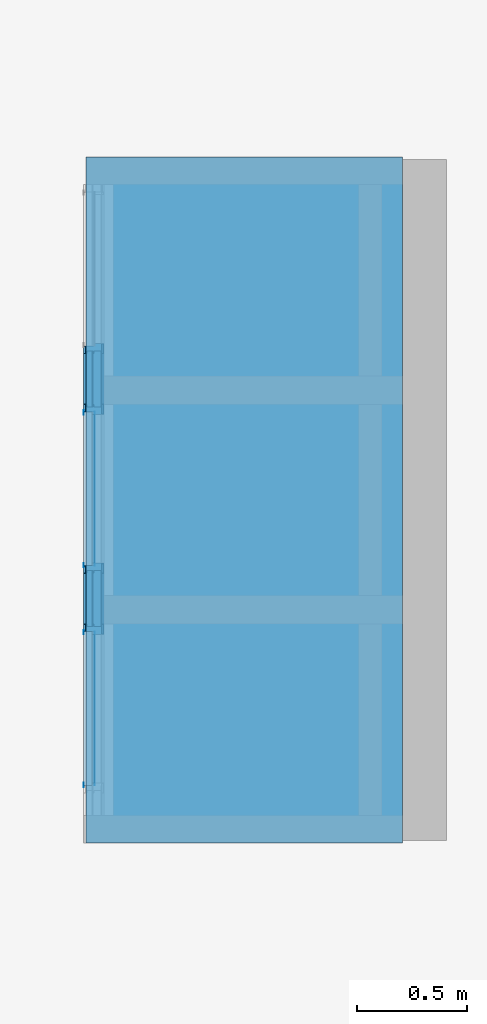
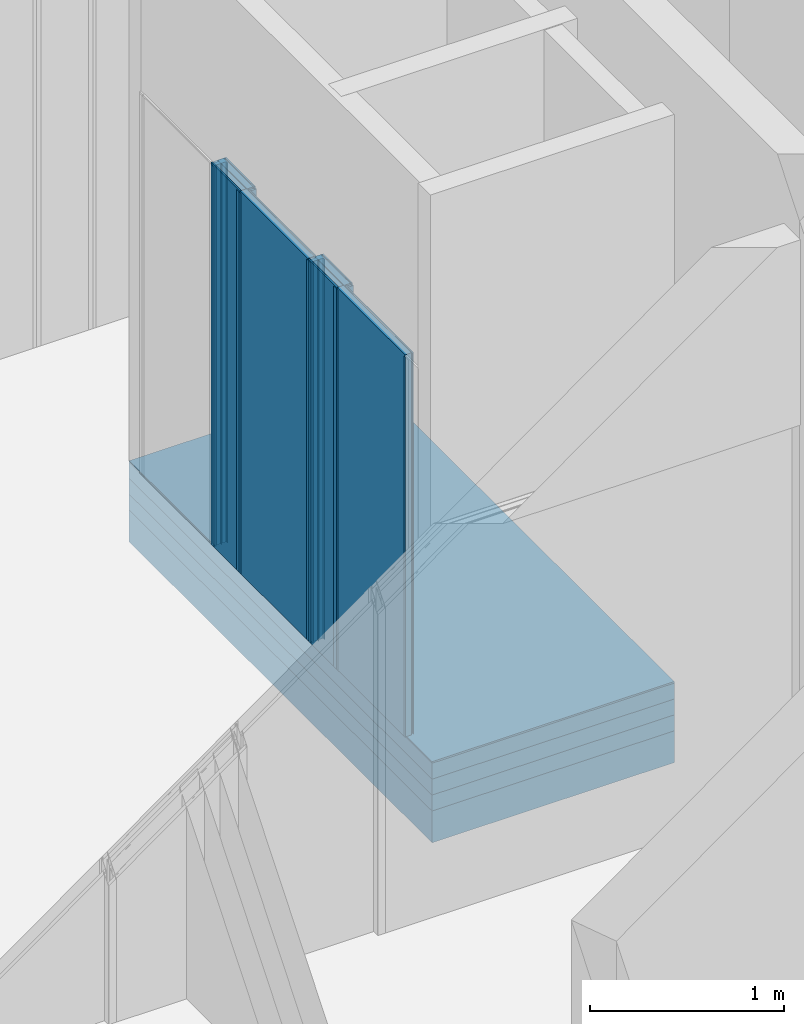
# One storey, part 19 of 89: 25 building element parts, 10 elements without a shape of their own.
"""IFC2X3 building model written with IfcOpenShell, lengths in millimetres."""

from ifc_helpers import new_model, entity, si_unit, converted_unit, derived_unit, money_unit, direction, frame, origin_with_axes, place, context, subcontext, project, spatial, polyline, outline, extrude, open_shell, faceted_brep, surface_model, source, transform, mapped, material, type_object, element, aggregate, save


model = new_model("IFC2X3")

# Units and contexts
model_context = context("Model", 3, precision=0.01, world=origin_with_axes(), true_north=direction((0.0, 1.0)))
body_context = subcontext(model_context, "Body", "Model", "MODEL_VIEW")
ifc_project = project(units=[si_unit("LENGTHUNIT", "METRE", prefix="MILLI"), si_unit("AREAUNIT", "SQUARE_METRE"), si_unit("VOLUMEUNIT", "CUBIC_METRE"), converted_unit("PLANEANGLEUNIT", "DEGREE", entity("IfcPlaneAngleMeasure", 0.0174532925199), si_unit("PLANEANGLEUNIT", "RADIAN"), dimensions=[0, 0, 0, 0, 0, 0, 0]), si_unit("SOLIDANGLEUNIT", "STERADIAN"), money_unit("EUR"), converted_unit("TIMEUNIT", "Year", entity("IfcTimeMeasure", 31556926.0), si_unit("TIMEUNIT", "SECOND"), dimensions=[0, 0, 1, 0, 0, 0, 0]), si_unit("MASSUNIT", "GRAM", prefix="KILO"), si_unit("THERMODYNAMICTEMPERATUREUNIT", "DEGREE_CELSIUS"), si_unit("LUMINOUSINTENSITYUNIT", "LUMEN"), si_unit("ENERGYUNIT", "JOULE", prefix="MEGA"), derived_unit("THERMALCONDUCTANCEUNIT", [(si_unit("POWERUNIT", "WATT"), 1), (si_unit("LENGTHUNIT", "METRE"), -1), (si_unit("THERMODYNAMICTEMPERATUREUNIT", "KELVIN"), -1)]), derived_unit("SPECIFICHEATCAPACITYUNIT", [(si_unit("ENERGYUNIT", "JOULE"), 1), (si_unit("MASSUNIT", "GRAM", prefix="KILO"), -1), (si_unit("THERMODYNAMICTEMPERATUREUNIT", "KELVIN"), -1)]), derived_unit("MASSDENSITYUNIT", [(si_unit("MASSUNIT", "GRAM", prefix="KILO"), 1), (si_unit("VOLUMEUNIT", "CUBIC_METRE"), -1)])], contexts=[model_context])

# Site, building, storey
site_placement = place(None, origin_with_axes())
site = spatial("IfcSite", under=ifc_project, at=site_placement, Name="Puškini 31, Narva", CompositionType="ELEMENT")
building_placement = place(site_placement, origin_with_axes())
building = spatial("IfcBuilding", under=site, at=building_placement, Name="Narva Riigigümnaasium", CompositionType="ELEMENT")
storey_placement = place(building_placement, frame((0.0, 0.0, -3300.0), z_axis=(0.0, 0.0, 1.0), x_axis=(1.0, 0.0, 0.0)))
storey = spatial("IfcBuildingStorey", under=building, at=storey_placement, Name="1.korrus -3.3", CompositionType="ELEMENT", Elevation=-3300.0)

# Curtain wall, members, building element parts, doors, plates
curtain_wall_type = type_object("IfcCurtainWallType", Name="Curtain Wall Type", PredefinedType="NOTDEFINED")
curtain_wall_placement = place(storey_placement, frame((33249.9999781, 201010.999711, -1.71671428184e-05), z_axis=(0.0, 0.0, 1.0), x_axis=(1.0, 0.0, 0.0)))
curtain_wall = element("IfcCurtainWall", 1, at=curtain_wall_placement, inside=storey, type_object=curtain_wall_type, Name="SUS-02")
member_type_1 = type_object("IfcMemberType", Name="SA-Siseuksesüsteem-P 46 x 0", PredefinedType="MULLION")
member_1_placement = place(curtain_wall_placement, frame((0.0, 650.000000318, 0.0), z_axis=(0.0, 0.0, 1.0), x_axis=(0.0, -1.0, 0.0)))
member_1 = element("IfcMember", 2, at=member_1_placement, type_object=member_type_1, Name="Frame-SA-Siseuks-036", ObjectType="MULLION")
ifc_material_1 = material(Name="MDF")
shared_shape_1 = source(origin_with_axes(), body_context, "Body", "Brep", [
    faceted_brep([(33.9999997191, 9.99997870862, 0.0), (1.99999958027, 10.0000006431, 0.0), (1.99999958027, 10.0000006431, 2390.00000263), (33.9999997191, 9.99997870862, 2390.00000263), (33.9999997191, 0.0, 0.0), (1.99999958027, 0.0, 0.0), (1.99999958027, 0.0, 2390.00000263), (33.9999997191, 0.0, 2390.00000263)], [[[0, 1, 2, 3]], [[0, 4, 5, 1]], [[1, 5, 6, 2]], [[3, 2, 6, 7]], [[4, 0, 3, 7]], [[5, 4, 7, 6]]]),
    faceted_brep([(33.9999997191, 91.9999779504, 0.0), (-10.0000294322, 91.9999779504, 0.0), (-10.0000294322, 91.9999779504, 2390.00000263), (33.9999997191, 91.9999779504, 2390.00000263), (33.9999997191, 81.9999773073, 0.0), (-10.0000294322, 81.9999773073, 0.0), (-10.0000294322, 81.9999773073, 2390.00000263), (33.9999997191, 81.9999773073, 2390.00000263)], [[[0, 1, 2, 3]], [[0, 4, 5, 1]], [[1, 5, 6, 2]], [[3, 2, 6, 7]], [[4, 0, 3, 7]], [[5, 4, 7, 6]]]),
])
building_element_part_1_placement = place(member_1_placement, origin_with_axes())
building_element_part_1 = element("IfcBuildingElementPart", 3, at=building_element_part_1_placement, material=ifc_material_1, Name="MDF", context=body_context, shape_type="MappedRepresentation", body=[
    mapped(shared_shape_1, transform((0.0, 0.0, 0.0))),
])
member_2_placement = place(curtain_wall_placement, frame((0.0, 1650.00000032, 0.0), z_axis=(0.0, 0.0, 1.0), x_axis=(0.0, -1.0, 0.0)))
member_2 = element("IfcMember", 4, at=member_2_placement, type_object=member_type_1, Name="Frame-SA-Siseuks-037", ObjectType="MULLION")
building_element_part_2_placement = place(member_2_placement, origin_with_axes())
building_element_part_2 = element("IfcBuildingElementPart", 5, at=building_element_part_2_placement, material=ifc_material_1, Name="MDF", context=body_context, shape_type="MappedRepresentation", body=[
    mapped(shared_shape_1, transform((0.0, 0.0, 0.0))),
])
ifc_material_2 = material(Name="Alumiiniumprofiil")
shared_shape_2 = source(origin_with_axes(), body_context, "Body", "Brep", [
    faceted_brep([(-12.0000002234, 47.5000006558, 0.0), (0.0, 47.5000006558, 0.0), (0.0, 47.5000006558, 2390.00000263), (-12.0000002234, 47.5000006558, 2390.00000263), (-12.0000002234, 91.9999779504, 0.0), (-10.0000006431, 91.9999779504, 0.0), (-10.0000294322, 81.9999773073, 0.0), (-9.99999927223, 81.5000003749, 0.0), (24.2499991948, 81.5000003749, 0.0), (33.9999997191, 81.5000003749, 0.0), (33.9999997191, 78.0000000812, 0.0), (22.4999997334, 78.0000000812, 0.0), (22.4999997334, 47.600000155, 0.0), (33.9999997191, 47.600000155, 0.0), (33.9999997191, 44.3999997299, 0.0), (22.4999997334, 44.3999997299, 0.0), (22.4999997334, 13.9999998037, 0.0), (33.9999997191, 13.9999998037, 0.0), (33.9999997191, 9.99997870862, 0.0), (32.0000001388, 9.99997870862, 0.0), (32.0000001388, 10.49999951, 0.0), (2.00000095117, 10.49999951, 0.0), (1.99999958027, 10.0000006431, 0.0), (2.00000095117, 0.0, 0.0), (0.0, 0.0, 0.0), (0.0, 32.9000011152, 0.0), (0.0, 32.9000011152, 2390.00000263), (0.0, 0.0, 2390.00000263), (2.00000095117, 0.0, 2390.00000263), (1.99999958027, 10.0000006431, 2390.00000263), (2.00000095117, 10.49999951, 2390.00000263), (32.0000001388, 10.49999951, 2390.00000263), (32.0000001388, 9.99997870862, 2390.00000263), (33.9999997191, 9.99997870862, 2390.00000263), (33.9999997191, 13.9999998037, 2390.00000263), (22.4999997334, 13.9999998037, 2390.00000263), (22.4999997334, 44.3999997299, 2390.00000263), (33.9999997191, 44.3999997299, 2390.00000263), (33.9999997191, 47.600000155, 2390.00000263), (22.4999997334, 47.600000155, 2390.00000263), (22.4999997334, 78.0000000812, 2390.00000263), (33.9999997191, 78.0000000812, 2390.00000263), (33.9999997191, 81.5000003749, 2390.00000263), (24.2499991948, 81.5000003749, 2390.00000263), (-9.99999927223, 81.5000003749, 2390.00000263), (-10.0000294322, 81.9999773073, 2390.00000263), (-10.0000006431, 91.9999779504, 2390.00000263), (-12.0000002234, 91.9999779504, 2390.00000263)], [[[0, 1, 2, 3]], [[0, 4, 5, 6, 7, 8, 9, 10, 11, 12, 13, 14, 15, 16, 17, 18, 19, 20, 21, 22, 23, 24, 25, 1]], [[1, 25, 26, 2]], [[3, 2, 26, 27, 28, 29, 30, 31, 32, 33, 34, 35, 36, 37, 38, 39, 40, 41, 42, 43, 44, 45, 46, 47]], [[4, 0, 3, 47]], [[5, 4, 47, 46]], [[6, 5, 46, 45]], [[7, 6, 45, 44]], [[8, 7, 44, 43]], [[9, 8, 43, 42]], [[10, 9, 42, 41]], [[11, 10, 41, 40]], [[12, 11, 40, 39]], [[13, 12, 39, 38]], [[14, 13, 38, 37]], [[15, 14, 37, 36]], [[16, 15, 36, 35]], [[17, 16, 35, 34]], [[18, 17, 34, 33]], [[19, 18, 33, 32]], [[20, 19, 32, 31]], [[21, 20, 31, 30]], [[22, 21, 30, 29]], [[23, 22, 29, 28]], [[24, 23, 28, 27]], [[25, 24, 27, 26]]]),
])
building_element_part_3_placement = place(member_1_placement, origin_with_axes())
building_element_part_3 = element("IfcBuildingElementPart", 6, at=building_element_part_3_placement, material=ifc_material_2, Name="Alumiiniumprofiil", context=body_context, shape_type="MappedRepresentation", body=[
    mapped(shared_shape_2, transform((0.0, 0.0, 0.0))),
])
aggregate(member_1, [building_element_part_1, building_element_part_3])
building_element_part_4_placement = place(member_2_placement, origin_with_axes())
building_element_part_4 = element("IfcBuildingElementPart", 7, at=building_element_part_4_placement, material=ifc_material_2, Name="Alumiiniumprofiil", context=body_context, shape_type="MappedRepresentation", body=[
    mapped(shared_shape_2, transform((0.0, 0.0, 0.0))),
])
aggregate(member_2, [building_element_part_2, building_element_part_4])
member_type_2 = type_object("IfcMemberType", Name="SA-Siseuksesüsteem-V 46 x 0", PredefinedType="MULLION")
member_3_placement = place(curtain_wall_placement, frame((0.0, 350.000000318, 0.0), z_axis=(0.0, 0.0, 1.0), x_axis=(0.0, -1.0, 0.0)))
member_3 = element("IfcMember", 8, at=member_3_placement, type_object=member_type_2, Name="Frame-New-Frame-036", ObjectType="MULLION")
shared_shape_3 = source(origin_with_axes(), body_context, "Body", "Brep", [
    faceted_brep([(-1.99999958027, 10.0000006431, 0.0), (-33.9999997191, 9.99997870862, 0.0), (-33.9999997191, 9.99997870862, 2390.00000263), (-1.99999958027, 10.0000006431, 2390.00000263), (-2.00000095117, 0.0, 0.0), (-33.9999997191, 0.0, 0.0), (-33.9999997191, 0.0, 2390.00000263), (-2.00000095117, 0.0, 2390.00000263)], [[[0, 1, 2, 3]], [[0, 4, 5, 1]], [[1, 5, 6, 2]], [[3, 2, 6, 7]], [[4, 0, 3, 7]], [[5, 4, 7, 6]]]),
    faceted_brep([(10.0000006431, 91.9999779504, 0.0), (-33.9999997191, 91.9999779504, 0.0), (-33.9999997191, 91.9999779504, 2390.00000263), (10.0000006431, 91.9999779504, 2390.00000263), (10.0000294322, 81.9999773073, 0.0), (-33.9999997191, 81.9999773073, 0.0), (-33.9999997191, 81.9999773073, 2390.00000263), (10.0000294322, 81.9999773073, 2390.00000263)], [[[0, 1, 2, 3]], [[0, 4, 5, 1]], [[1, 5, 6, 2]], [[3, 2, 6, 7]], [[4, 0, 3, 7]], [[5, 4, 7, 6]]]),
])
building_element_part_5_placement = place(member_3_placement, origin_with_axes())
building_element_part_5 = element("IfcBuildingElementPart", 9, at=building_element_part_5_placement, material=ifc_material_1, Name="MDF", context=body_context, shape_type="MappedRepresentation", body=[
    mapped(shared_shape_3, transform((0.0, 0.0, 0.0))),
])
member_4_placement = place(curtain_wall_placement, frame((0.0, 1350.00000032, 0.0), z_axis=(0.0, 0.0, 1.0), x_axis=(0.0, -1.0, 0.0)))
member_4 = element("IfcMember", 10, at=member_4_placement, type_object=member_type_2, Name="Frame-New-Frame-037", ObjectType="MULLION")
building_element_part_6_placement = place(member_4_placement, origin_with_axes())
building_element_part_6 = element("IfcBuildingElementPart", 11, at=building_element_part_6_placement, material=ifc_material_1, Name="MDF", context=body_context, shape_type="MappedRepresentation", body=[
    mapped(shared_shape_3, transform((0.0, 0.0, 0.0))),
])
shared_shape_4 = source(origin_with_axes(), body_context, "Body", "Brep", [
    faceted_brep([(12.0000002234, 47.5000006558, 0.0), (12.0000002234, 91.9999779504, 0.0), (12.0000002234, 91.9999779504, 2390.00000263), (12.0000002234, 47.5000006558, 2390.00000263), (0.0, 47.5000006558, 0.0), (0.0, 32.9000011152, 0.0), (0.0, 0.0, 0.0), (-2.00000095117, 0.0, 0.0), (-1.99999958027, 10.0000006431, 0.0), (-2.00000095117, 10.49999951, 0.0), (-32.0000001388, 10.49999951, 0.0), (-32.0000001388, 9.99997870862, 0.0), (-33.9999997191, 9.99997870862, 0.0), (-33.9999997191, 13.9999998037, 0.0), (-22.4999997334, 13.9999998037, 0.0), (-22.4999997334, 44.3999997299, 0.0), (-33.9999997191, 44.3999997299, 0.0), (-33.9999997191, 47.600000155, 0.0), (-22.4999997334, 47.600000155, 0.0), (-22.4999997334, 78.0000000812, 0.0), (-33.9999997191, 78.0000000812, 0.0), (-33.9999997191, 81.5000003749, 0.0), (-24.2499991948, 81.5000003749, 0.0), (9.99999927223, 81.5000003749, 0.0), (10.0000294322, 81.9999773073, 0.0), (10.0000006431, 91.9999779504, 0.0), (10.0000006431, 91.9999779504, 2390.00000263), (10.0000294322, 81.9999773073, 2390.00000263), (9.99999927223, 81.5000003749, 2390.00000263), (-24.2499991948, 81.5000003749, 2390.00000263), (-33.9999997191, 81.5000003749, 2390.00000263), (-33.9999997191, 78.0000000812, 2390.00000263), (-22.4999997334, 78.0000000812, 2390.00000263), (-22.4999997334, 47.600000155, 2390.00000263), (-33.9999997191, 47.600000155, 2390.00000263), (-33.9999997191, 44.3999997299, 2390.00000263), (-22.4999997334, 44.3999997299, 2390.00000263), (-22.4999997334, 13.9999998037, 2390.00000263), (-33.9999997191, 13.9999998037, 2390.00000263), (-33.9999997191, 9.99997870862, 2390.00000263), (-32.0000001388, 9.99997870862, 2390.00000263), (-32.0000001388, 10.49999951, 2390.00000263), (-2.00000095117, 10.49999951, 2390.00000263), (-1.99999958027, 10.0000006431, 2390.00000263), (-2.00000095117, 0.0, 2390.00000263), (0.0, 0.0, 2390.00000263), (0.0, 32.9000011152, 2390.00000263), (0.0, 47.5000006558, 2390.00000263)], [[[0, 1, 2, 3]], [[0, 4, 5, 6, 7, 8, 9, 10, 11, 12, 13, 14, 15, 16, 17, 18, 19, 20, 21, 22, 23, 24, 25, 1]], [[1, 25, 26, 2]], [[3, 2, 26, 27, 28, 29, 30, 31, 32, 33, 34, 35, 36, 37, 38, 39, 40, 41, 42, 43, 44, 45, 46, 47]], [[4, 0, 3, 47]], [[5, 4, 47, 46]], [[6, 5, 46, 45]], [[7, 6, 45, 44]], [[8, 7, 44, 43]], [[9, 8, 43, 42]], [[10, 9, 42, 41]], [[11, 10, 41, 40]], [[12, 11, 40, 39]], [[13, 12, 39, 38]], [[14, 13, 38, 37]], [[15, 14, 37, 36]], [[16, 15, 36, 35]], [[17, 16, 35, 34]], [[18, 17, 34, 33]], [[19, 18, 33, 32]], [[20, 19, 32, 31]], [[21, 20, 31, 30]], [[22, 21, 30, 29]], [[23, 22, 29, 28]], [[24, 23, 28, 27]], [[25, 24, 27, 26]]]),
])
building_element_part_7_placement = place(member_3_placement, origin_with_axes())
building_element_part_7 = element("IfcBuildingElementPart", 12, at=building_element_part_7_placement, material=ifc_material_2, Name="Alumiiniumprofiil", context=body_context, shape_type="MappedRepresentation", body=[
    mapped(shared_shape_4, transform((0.0, 0.0, 0.0))),
])
aggregate(member_3, [building_element_part_5, building_element_part_7])
building_element_part_8_placement = place(member_4_placement, origin_with_axes())
building_element_part_8 = element("IfcBuildingElementPart", 13, at=building_element_part_8_placement, material=ifc_material_2, Name="Alumiiniumprofiil", context=body_context, shape_type="MappedRepresentation", body=[
    mapped(shared_shape_4, transform((0.0, 0.0, 0.0))),
])
aggregate(member_4, [building_element_part_6, building_element_part_8])
door_style = type_object("IfcDoorStyle", Name="SU-Sile 7 x 2390 x 0", ConstructionType="NOTDEFINED", OperationType="NOTDEFINED", ParameterTakesPrecedence=False, Sizeable=False)
door_1_placement = place(curtain_wall_placement, frame((0.0, 0.0, 1195.00000131), z_axis=(0.0, 0.0, 1.0), x_axis=(0.0, -1.0, 0.0)))
door_1 = element("IfcDoor", 14, at=door_1_placement, type_object=door_style, Name="G-SU-028", ObjectType="DOOR")
ifc_material_3 = material(Name="Alumiiniumprofiil (RAL 7021)")
shared_shape_5 = source(origin_with_axes(), body_context, "Body", "SurfaceModel", [
    surface_model("IfcShellBasedSurfaceModel", [(699.999996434, 0.0, 50.0), (687.999996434, 0.0, 50.0), (687.999996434, 2390.00000263, 50.0), (699.999996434, 2402.00000263, 50.0)], [open_shell([[[0, 1, 2, 3]]])]),
    surface_model("IfcShellBasedSurfaceModel", [(687.999996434, 2390.00000263, 50.0), (12.0000018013, 2390.00000263, 50.0), (1.80131154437e-06, 2402.00000263, 50.0), (699.999996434, 2402.00000263, 50.0)], [open_shell([[[0, 1, 2, 3]]])]),
    surface_model("IfcShellBasedSurfaceModel", [(12.0000018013, 2390.00000263, 50.0), (12.0000018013, 0.0, 50.0), (1.80131154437e-06, 0.0, 50.0), (1.80131154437e-06, 2402.00000263, 50.0)], [open_shell([[[0, 1, 2, 3]]])]),
    surface_model("IfcShellBasedSurfaceModel", [(707.000000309, 0.0, 0.0), (687.999996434, 0.0, 0.0), (687.999996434, 2390.00000263, 0.0), (707.000000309, 2390.00000263, 0.0)], [open_shell([[[0, 1, 2, 3]]])]),
    surface_model("IfcShellBasedSurfaceModel", [(-7.00000002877, 2390.00000263, 0.0), (12.0000018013, 2390.00000263, 0.0), (12.0000018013, 0.0, 0.0), (-7.00000002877, 0.0, 0.0)], [open_shell([[[0, 1, 2, 3]]])]),
])
building_element_part_9_placement = place(door_1_placement, origin_with_axes())
building_element_part_9 = element("IfcBuildingElementPart", 15, at=building_element_part_9_placement, material=ifc_material_3, Name="Alumiiniumprofiil (RAL 7021)", context=body_context, shape_type="MappedRepresentation", body=[
    mapped(shared_shape_5, transform((350.000000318, 0.0, -1195.00000131), x_axis=(-1.0, 0.0, 0.0), y_axis=(0.0, 0.0, 1.0), z_axis=(0.0, 1.0, 0.0))),
])
door_2_placement = place(curtain_wall_placement, frame((0.0, 1000.00000032, 1195.00000131), z_axis=(0.0, 0.0, 1.0), x_axis=(0.0, -1.0, 0.0)))
door_2 = element("IfcDoor", 16, at=door_2_placement, type_object=door_style, Name="G-SU-027", ObjectType="DOOR")
building_element_part_10_placement = place(door_2_placement, origin_with_axes())
building_element_part_10 = element("IfcBuildingElementPart", 17, at=building_element_part_10_placement, material=ifc_material_3, Name="Alumiiniumprofiil (RAL 7021)", context=body_context, shape_type="MappedRepresentation", body=[
    mapped(shared_shape_5, transform((350.0, 0.0, -1195.00000131), x_axis=(-1.0, 0.0, 0.0), y_axis=(0.0, 0.0, 1.0), z_axis=(0.0, 1.0, 0.0))),
])
shared_shape_6 = source(origin_with_axes(), body_context, "Body", "Brep", [
    faceted_brep([(1.80131110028e-06, 0.0, 38.1818181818), (1.80131110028e-06, 0.0, 0.0), (699.999996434, 0.0, 0.0), (699.999996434, 0.0, 38.1818181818), (1.80131110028e-06, 2402.00000263, 38.1818181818), (1.80131110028e-06, 2402.00000263, 0.0), (699.999996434, 2402.00000263, 0.0), (699.999996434, 2402.00000263, 38.1818181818)], [[[0, 1, 2, 3]], [[4, 5, 1, 0]], [[1, 5, 6, 2]], [[3, 2, 6, 7]], [[0, 3, 7, 4]], [[7, 6, 5, 4]]]),
    faceted_brep([(12.0000017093, 0.0, 50.0), (12.0000017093, 0.0, 38.1818181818), (687.999996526, 0.0, 38.1818181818), (687.999996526, 0.0, 50.0), (12.0000017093, 2388.27428832, 50.0), (12.0000017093, 2388.27428832, 38.1818181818), (687.999996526, 2388.27428832, 38.1818181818), (687.999996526, 2388.27428832, 50.0)], [[[0, 1, 2, 3]], [[4, 5, 1, 0]], [[1, 5, 6, 2]], [[3, 2, 6, 7]], [[0, 3, 7, 4]], [[7, 6, 5, 4]]]),
])
building_element_part_11_placement = place(door_1_placement, origin_with_axes())
building_element_part_11 = element("IfcBuildingElementPart", 18, at=building_element_part_11_placement, material=ifc_material_1, Name="MDF", context=body_context, shape_type="MappedRepresentation", body=[
    mapped(shared_shape_6, transform((350.000000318, 0.0, -1195.00000131), x_axis=(-1.0, 0.0, 0.0), y_axis=(0.0, 0.0, 1.0), z_axis=(0.0, 1.0, 0.0))),
])
aggregate(door_1, [building_element_part_9, building_element_part_11])
building_element_part_12_placement = place(door_2_placement, origin_with_axes())
building_element_part_12 = element("IfcBuildingElementPart", 19, at=building_element_part_12_placement, material=ifc_material_1, Name="MDF", context=body_context, shape_type="MappedRepresentation", body=[
    mapped(shared_shape_6, transform((350.0, 0.0, -1195.00000131), x_axis=(-1.0, 0.0, 0.0), y_axis=(0.0, 0.0, 1.0), z_axis=(0.0, 1.0, 0.0))),
])
aggregate(door_2, [building_element_part_10, building_element_part_12])
plate_type = type_object("IfcPlateType", Name="SA-Siseuksesüsteem-Paneel 300 x 10 x 0", PredefinedType="CURTAIN_PANEL")
plate_1_placement = place(curtain_wall_placement, frame((0.0, 500.000000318, 1596.66666842), z_axis=(0.0, 0.0, 1.0), x_axis=(0.0, -1.0, 0.0)))
plate_1 = element("IfcPlate", 20, at=plate_1_placement, type_object=plate_type, Name="Panel-SA-Siseuks-076", ObjectType="CURTAIN_PANEL")
shared_shape_7 = source(origin_with_axes(), body_context, "Body", "Brep", [
    faceted_brep([(300.000000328, 2400.00000263, 0.0), (0.0, 2400.00000263, 0.0), (0.0, 2400.00000263, 10.0), (300.000000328, 2400.00000263, 10.0), (300.000000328, 2390.00000261, 0.0), (266.000000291, 2390.00000261, 0.0), (266.000000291, 0.0, 0.0), (34.0000000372, 0.0, 0.0), (34.0000000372, 2390.00000261, 0.0), (0.0, 2390.00000261, 0.0), (0.0, 2390.00000261, 10.0), (34.0000000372, 2390.00000261, 10.0), (34.0000000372, 0.0, 10.0), (266.000000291, 0.0, 10.0), (266.000000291, 2390.00000261, 10.0), (300.000000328, 2390.00000261, 10.0)], [[[0, 1, 2, 3]], [[0, 4, 5, 6, 7, 8, 9, 1]], [[1, 9, 10, 2]], [[3, 2, 10, 11, 12, 13, 14, 15]], [[4, 0, 3, 15]], [[5, 4, 15, 14]], [[6, 5, 14, 13]], [[7, 6, 13, 12]], [[8, 7, 12, 11]], [[9, 8, 11, 10]]]),
    faceted_brep([(300.000000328, 2400.00000263, 84.0), (0.0, 2400.00000263, 84.0), (0.0, 2400.00000263, 92.0), (300.000000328, 2400.00000263, 92.0), (300.000000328, 2390.00000261, 84.0), (266.000000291, 2390.00000261, 84.0), (266.000000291, 0.0, 84.0), (34.0000000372, 0.0, 84.0), (34.0000000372, 2390.00000261, 84.0), (0.0, 2390.00000261, 84.0), (0.0, 2390.00000261, 92.0), (34.0000000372, 2390.00000261, 92.0), (34.0000000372, 0.0, 92.0), (266.000000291, 0.0, 92.0), (266.000000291, 2390.00000261, 92.0), (300.000000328, 2390.00000261, 92.0)], [[[0, 1, 2, 3]], [[0, 4, 5, 6, 7, 8, 9, 1]], [[1, 9, 10, 2]], [[3, 2, 10, 11, 12, 13, 14, 15]], [[4, 0, 3, 15]], [[5, 4, 15, 14]], [[6, 5, 14, 13]], [[7, 6, 13, 12]], [[8, 7, 12, 11]], [[9, 8, 11, 10]]]),
])
building_element_part_13_placement = place(plate_1_placement, origin_with_axes())
building_element_part_13 = element("IfcBuildingElementPart", 21, at=building_element_part_13_placement, material=ifc_material_1, Name="MDF", context=body_context, shape_type="MappedRepresentation", body=[
    mapped(shared_shape_7, transform((150.0, 0.0, -1596.66666842), x_axis=(-1.0, 0.0, 0.0), y_axis=(0.0, 0.0, 1.0), z_axis=(0.0, 1.0, 0.0))),
])
plate_2_placement = place(curtain_wall_placement, frame((0.0, 1500.00000032, 1596.66666842), z_axis=(0.0, 0.0, 1.0), x_axis=(0.0, -1.0, 0.0)))
plate_2 = element("IfcPlate", 22, at=plate_2_placement, type_object=plate_type, Name="Panel-SA-Siseuks-077", ObjectType="CURTAIN_PANEL")
aggregate(curtain_wall, [door_1, door_2, member_3, member_1, member_4, member_2, plate_1, plate_2])
building_element_part_14_placement = place(plate_2_placement, origin_with_axes())
building_element_part_14 = element("IfcBuildingElementPart", 23, at=building_element_part_14_placement, material=ifc_material_1, Name="MDF", context=body_context, shape_type="MappedRepresentation", body=[
    mapped(shared_shape_7, transform((150.0, 0.0, -1596.66666842), x_axis=(-1.0, 0.0, 0.0), y_axis=(0.0, 0.0, 1.0), z_axis=(0.0, 1.0, 0.0))),
])
ifc_material_4 = material(Name="Õhkvahe")
shared_shape_8 = source(origin_with_axes(), body_context, "Body", "Brep", [
    faceted_brep([(300.000000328, 2400.00000263, 10.0), (0.0, 2400.00000263, 10.0), (0.0, 2400.00000263, 12.0), (300.000000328, 2400.00000263, 12.0), (300.000000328, 2390.00000261, 10.0), (266.000000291, 2390.00000261, 10.0), (266.000000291, 0.0, 10.0), (34.0000000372, 0.0, 10.0), (34.0000000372, 2390.00000261, 10.0), (0.0, 2390.00000261, 10.0), (0.0, 2390.00000261, 12.0), (34.0000000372, 2390.00000261, 12.0), (34.0000000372, 0.0, 12.0), (266.000000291, 0.0, 12.0), (266.000000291, 2390.00000261, 12.0), (300.000000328, 2390.00000261, 12.0)], [[[0, 1, 2, 3]], [[0, 4, 5, 6, 7, 8, 9, 1]], [[1, 9, 10, 2]], [[3, 2, 10, 11, 12, 13, 14, 15]], [[4, 0, 3, 15]], [[5, 4, 15, 14]], [[6, 5, 14, 13]], [[7, 6, 13, 12]], [[8, 7, 12, 11]], [[9, 8, 11, 10]]]),
    faceted_brep([(300.000000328, 2400.00000263, 38.0), (0.0, 2400.00000263, 38.0), (0.0, 2400.00000263, 42.0), (300.000000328, 2400.00000263, 42.0), (300.000000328, 2390.00000261, 38.0), (266.000000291, 2390.00000261, 38.0), (266.000000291, 0.0, 38.0), (34.0000000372, 0.0, 38.0), (34.0000000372, 2390.00000261, 38.0), (0.0, 2390.00000261, 38.0), (0.0, 2390.00000261, 42.0), (34.0000000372, 2390.00000261, 42.0), (34.0000000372, 0.0, 42.0), (266.000000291, 0.0, 42.0), (266.000000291, 2390.00000261, 42.0), (300.000000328, 2390.00000261, 42.0)], [[[0, 1, 2, 3]], [[0, 4, 5, 6, 7, 8, 9, 1]], [[1, 9, 10, 2]], [[3, 2, 10, 11, 12, 13, 14, 15]], [[4, 0, 3, 15]], [[5, 4, 15, 14]], [[6, 5, 14, 13]], [[7, 6, 13, 12]], [[8, 7, 12, 11]], [[9, 8, 11, 10]]]),
    faceted_brep([(300.000000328, 2400.00000263, 79.0), (0.0, 2400.00000263, 79.0), (0.0, 2400.00000263, 84.0), (300.000000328, 2400.00000263, 84.0), (300.000000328, 2390.00000261, 79.0), (266.000000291, 2390.00000261, 79.0), (266.000000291, 0.0, 79.0), (34.0000000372, 0.0, 79.0), (34.0000000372, 2390.00000261, 79.0), (0.0, 2390.00000261, 79.0), (0.0, 2390.00000261, 84.0), (34.0000000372, 2390.00000261, 84.0), (34.0000000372, 0.0, 84.0), (266.000000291, 0.0, 84.0), (266.000000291, 2390.00000261, 84.0), (300.000000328, 2390.00000261, 84.0)], [[[0, 1, 2, 3]], [[0, 4, 5, 6, 7, 8, 9, 1]], [[1, 9, 10, 2]], [[3, 2, 10, 11, 12, 13, 14, 15]], [[4, 0, 3, 15]], [[5, 4, 15, 14]], [[6, 5, 14, 13]], [[7, 6, 13, 12]], [[8, 7, 12, 11]], [[9, 8, 11, 10]]]),
])
building_element_part_15_placement = place(plate_1_placement, origin_with_axes())
building_element_part_15 = element("IfcBuildingElementPart", 24, at=building_element_part_15_placement, material=ifc_material_4, Name="Õhkvahe", context=body_context, shape_type="MappedRepresentation", body=[
    mapped(shared_shape_8, transform((150.0, 0.0, -1596.66666842), x_axis=(-1.0, 0.0, 0.0), y_axis=(0.0, 0.0, 1.0), z_axis=(0.0, 1.0, 0.0))),
])
building_element_part_16_placement = place(plate_2_placement, origin_with_axes())
building_element_part_16 = element("IfcBuildingElementPart", 25, at=building_element_part_16_placement, material=ifc_material_4, Name="Õhkvahe", context=body_context, shape_type="MappedRepresentation", body=[
    mapped(shared_shape_8, transform((150.0, 0.0, -1596.66666842), x_axis=(-1.0, 0.0, 0.0), y_axis=(0.0, 0.0, 1.0), z_axis=(0.0, 1.0, 0.0))),
])
ifc_material_5 = material(Name="Kipsplaat")
shared_shape_9 = source(origin_with_axes(), body_context, "Body", "Brep", [
    faceted_brep([(300.000000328, 2400.00000263, 12.0), (0.0, 2400.00000263, 12.0), (0.0, 2400.00000263, 25.0), (300.000000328, 2400.00000263, 25.0), (300.000000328, 2390.00000261, 12.0), (266.000000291, 2390.00000261, 12.0), (266.000000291, 0.0, 12.0), (34.0000000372, 0.0, 12.0), (34.0000000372, 2390.00000261, 12.0), (0.0, 2390.00000261, 12.0), (0.0, 2390.00000261, 25.0), (34.0000000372, 2390.00000261, 25.0), (34.0000000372, 0.0, 25.0), (266.000000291, 0.0, 25.0), (266.000000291, 2390.00000261, 25.0), (300.000000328, 2390.00000261, 25.0)], [[[0, 1, 2, 3]], [[0, 4, 5, 6, 7, 8, 9, 1]], [[1, 9, 10, 2]], [[3, 2, 10, 11, 12, 13, 14, 15]], [[4, 0, 3, 15]], [[5, 4, 15, 14]], [[6, 5, 14, 13]], [[7, 6, 13, 12]], [[8, 7, 12, 11]], [[9, 8, 11, 10]]]),
    faceted_brep([(300.000000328, 2400.00000263, 25.0), (0.0, 2400.00000263, 25.0), (0.0, 2400.00000263, 38.0), (300.000000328, 2400.00000263, 38.0), (300.000000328, 2390.00000261, 25.0), (266.000000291, 2390.00000261, 25.0), (266.000000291, 0.0, 25.0), (34.0000000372, 0.0, 25.0), (34.0000000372, 2390.00000261, 25.0), (0.0, 2390.00000261, 25.0), (0.0, 2390.00000261, 38.0), (34.0000000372, 2390.00000261, 38.0), (34.0000000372, 0.0, 38.0), (266.000000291, 0.0, 38.0), (266.000000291, 2390.00000261, 38.0), (300.000000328, 2390.00000261, 38.0)], [[[0, 1, 2, 3]], [[0, 4, 5, 6, 7, 8, 9, 1]], [[1, 9, 10, 2]], [[3, 2, 10, 11, 12, 13, 14, 15]], [[4, 0, 3, 15]], [[5, 4, 15, 14]], [[6, 5, 14, 13]], [[7, 6, 13, 12]], [[8, 7, 12, 11]], [[9, 8, 11, 10]]]),
])
building_element_part_17_placement = place(plate_1_placement, origin_with_axes())
building_element_part_17 = element("IfcBuildingElementPart", 26, at=building_element_part_17_placement, material=ifc_material_5, Name="Kipsplaat", context=body_context, shape_type="MappedRepresentation", body=[
    mapped(shared_shape_9, transform((150.0, 0.0, -1596.66666842), x_axis=(-1.0, 0.0, 0.0), y_axis=(0.0, 0.0, 1.0), z_axis=(0.0, 1.0, 0.0))),
])
building_element_part_18_placement = place(plate_2_placement, origin_with_axes())
building_element_part_18 = element("IfcBuildingElementPart", 27, at=building_element_part_18_placement, material=ifc_material_5, Name="Kipsplaat", context=body_context, shape_type="MappedRepresentation", body=[
    mapped(shared_shape_9, transform((150.0, 0.0, -1596.66666842), x_axis=(-1.0, 0.0, 0.0), y_axis=(0.0, 0.0, 1.0), z_axis=(0.0, 1.0, 0.0))),
])
ifc_material_6 = material(Name="Klaasvill")
shared_shape_10 = source(origin_with_axes(), body_context, "Body", "Brep", [
    faceted_brep([(300.000000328, 2400.00000263, 42.0), (0.0, 2400.00000263, 42.0), (0.0, 2400.00000263, 79.0), (300.000000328, 2400.00000263, 79.0), (300.000000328, 2390.00000261, 42.0), (266.000000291, 2390.00000261, 42.0), (266.000000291, 0.0, 42.0), (34.0000000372, 0.0, 42.0), (34.0000000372, 2390.00000261, 42.0), (0.0, 2390.00000261, 42.0), (0.0, 2390.00000261, 79.0), (34.0000000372, 2390.00000261, 79.0), (34.0000000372, 0.0, 79.0), (266.000000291, 0.0, 79.0), (266.000000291, 2390.00000261, 79.0), (300.000000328, 2390.00000261, 79.0)], [[[0, 1, 2, 3]], [[0, 4, 5, 6, 7, 8, 9, 1]], [[1, 9, 10, 2]], [[3, 2, 10, 11, 12, 13, 14, 15]], [[4, 0, 3, 15]], [[5, 4, 15, 14]], [[6, 5, 14, 13]], [[7, 6, 13, 12]], [[8, 7, 12, 11]], [[9, 8, 11, 10]]]),
])
building_element_part_19_placement = place(plate_1_placement, origin_with_axes())
building_element_part_19 = element("IfcBuildingElementPart", 28, at=building_element_part_19_placement, material=ifc_material_6, Name="Klaasvill", context=body_context, shape_type="MappedRepresentation", body=[
    mapped(shared_shape_10, transform((150.0, 0.0, -1596.66666842), x_axis=(-1.0, 0.0, 0.0), y_axis=(0.0, 0.0, 1.0), z_axis=(0.0, 1.0, 0.0))),
])
aggregate(plate_1, [building_element_part_13, building_element_part_15, building_element_part_17, building_element_part_19])
building_element_part_20_placement = place(plate_2_placement, origin_with_axes())
building_element_part_20 = element("IfcBuildingElementPart", 29, at=building_element_part_20_placement, material=ifc_material_6, Name="Klaasvill", context=body_context, shape_type="MappedRepresentation", body=[
    mapped(shared_shape_10, transform((150.0, 0.0, -1596.66666842), x_axis=(-1.0, 0.0, 0.0), y_axis=(0.0, 0.0, 1.0), z_axis=(0.0, 1.0, 0.0))),
])
aggregate(plate_2, [building_element_part_14, building_element_part_16, building_element_part_18, building_element_part_20])

# Slab, building element parts
slab_type = type_object("IfcSlabType", Name="G-PP-01 510", PredefinedType="NOTDEFINED")
slab_placement = place(storey_placement, frame((33259.9999781, 200399.99971, 0.0), z_axis=(0.0, 0.0, 1.0), x_axis=(1.0, 0.0, 0.0)))
slab = element("IfcSlab", 30, at=slab_placement, inside=storey, type_object=slab_type, Name="Põrand pinnasel", PredefinedType="NOTDEFINED")
ifc_material_7 = material(Name="VKK-03_Kruus")
building_element_part_21_placement = place(slab_placement, origin_with_axes())
building_element_part_21 = element("IfcBuildingElementPart", 31, at=building_element_part_21_placement, material=ifc_material_7, Name="VKK-03_Kruus", context=body_context, shape_type="SweptSolid", body=[
    extrude(outline(polyline([(0.0, 0.0), (1440.00002153, 0.0), (1440.00002153, 3120.0), (0.0, 3120.0), (0.0, 0.0)])), frame((0.0, 0.0, -510.0), z_axis=(0.0, 0.0, 1.0), x_axis=(1.0, 0.0, 0.0)), (0.0, 0.0, 1.0), 200.0),
])
ifc_material_8 = material(Name="SOJ-04_Soojustus - Mineraal Kõva")
building_element_part_22_placement = place(slab_placement, origin_with_axes())
building_element_part_22 = element("IfcBuildingElementPart", 32, at=building_element_part_22_placement, material=ifc_material_8, Name="SOJ-04_Soojustus - Mineraal Kõva", context=body_context, shape_type="SweptSolid", body=[
    extrude(outline(polyline([(0.0, 0.0), (1440.00002153, 0.0), (1440.00002153, 3120.0), (0.0, 3120.0), (0.0, 0.0)])), frame((0.0, 0.0, -310.0), z_axis=(0.0, 0.0, 1.0), x_axis=(1.0, 0.0, 0.0)), (0.0, 0.0, 1.0), 100.0),
])
building_element_part_23_placement = place(slab_placement, origin_with_axes())
building_element_part_23 = element("IfcBuildingElementPart", 33, at=building_element_part_23_placement, material=ifc_material_8, Name="SOJ-04_Soojustus - Mineraal Kõva", context=body_context, shape_type="SweptSolid", body=[
    extrude(outline(polyline([(0.0, 0.0), (1440.00002153, 0.0), (1440.00002153, 3120.0), (0.0, 3120.0), (0.0, 0.0)])), frame((0.0, 0.0, -210.0), z_axis=(0.0, 0.0, 1.0), x_axis=(1.0, 0.0, 0.0)), (0.0, 0.0, 1.0), 100.0),
])
ifc_material_9 = material(Name="KON-04_Betoon - Konstuktsioon")
building_element_part_24_placement = place(slab_placement, origin_with_axes())
building_element_part_24 = element("IfcBuildingElementPart", 34, at=building_element_part_24_placement, material=ifc_material_9, Name="KON-04_Betoon - Konstuktsioon", context=body_context, shape_type="SweptSolid", body=[
    extrude(outline(polyline([(0.0, 0.0), (1440.00002153, 0.0), (1440.00002153, 3120.0), (0.0, 3120.0), (0.0, 0.0)])), frame((0.0, 0.0, -110.0), z_axis=(0.0, 0.0, 1.0), x_axis=(1.0, 0.0, 0.0)), (0.0, 0.0, 1.0), 100.0),
])
ifc_material_10 = material(Name="Salto-põrandakate")
building_element_part_25_placement = place(slab_placement, origin_with_axes())
building_element_part_25 = element("IfcBuildingElementPart", 35, at=building_element_part_25_placement, material=ifc_material_10, Name="Salto-põrandakate", context=body_context, shape_type="SweptSolid", body=[
    extrude(outline(polyline([(0.0, 0.0), (1440.00002153, 0.0), (1440.00002153, 3120.0), (0.0, 3120.0), (0.0, 0.0)])), frame((0.0, 0.0, -10.0), z_axis=(0.0, 0.0, 1.0), x_axis=(1.0, 0.0, 0.0)), (0.0, 0.0, 1.0), 10.0),
])
aggregate(slab, [building_element_part_21, building_element_part_22, building_element_part_23, building_element_part_24, building_element_part_25])

save(model, "model.ifc")
